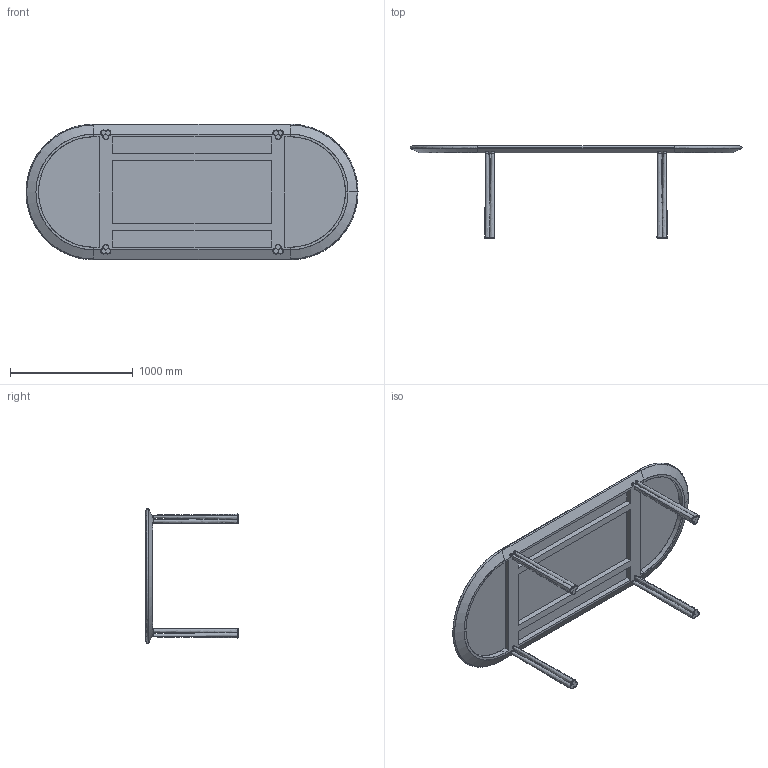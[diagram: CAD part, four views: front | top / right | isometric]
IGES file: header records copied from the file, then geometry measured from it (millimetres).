
Start section: SolidWorks IGES file using analytic representation for surfaces
Global section: file name: E:\051LZ Elliot Dining Table_vc_2017-10-11\051LZ Elliot Dining Table.IGS; native system: SolidWorks 2016; preprocessor: SolidWorks 2016; author: Kumagai; date: 180213.124452; units: millimetre
Bounding box: 2704.39 x 753.5 x 1104.66 mm (x, y, z)
Surface area: 7231272.9 mm2 (no closed solid volume)
Topology: 0 solids, 0 shells, 223 faces, 5252 edges, 5252 vertices
Faces by surface type: bspline 161, revolution 62
